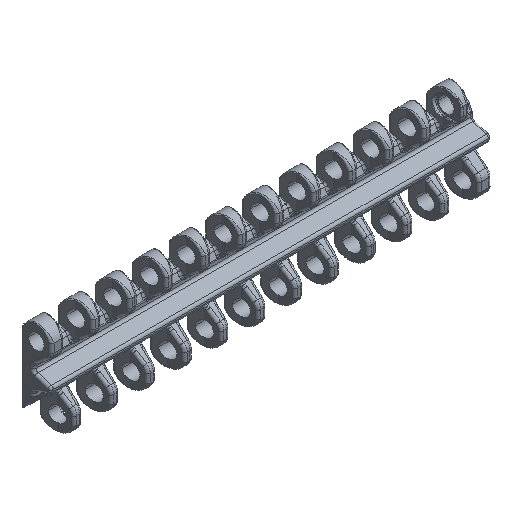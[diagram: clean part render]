
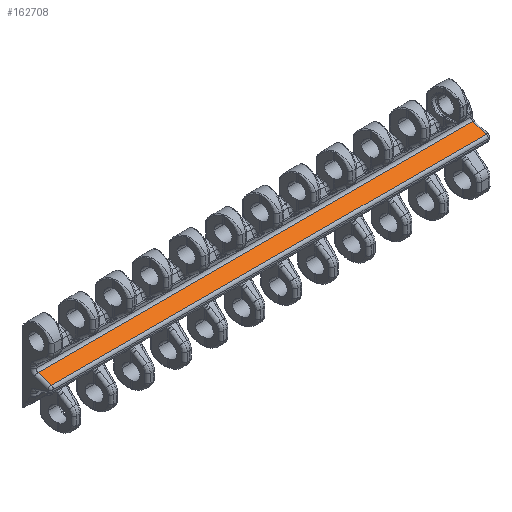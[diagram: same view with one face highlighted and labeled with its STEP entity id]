
A CAD part, isometric view. The second image highlights one B-rep face of the part: STEP entity #162708.
In plain terms, the highlighted planar face has unit normal (0, -0.309, 0.951).
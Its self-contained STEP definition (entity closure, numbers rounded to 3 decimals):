
#53233=DIRECTION('',(-1.,0.,0.));
#53234=VECTOR('',#53233,150.04);
#53235=CARTESIAN_POINT('',(75.02,0.409,2.725));
#53236=LINE('',#53235,#53234);
#53242=DIRECTION('',(0.,-0.951,-0.309));
#53243=VECTOR('',#53242,4.856);
#53244=CARTESIAN_POINT('',(75.02,0.409,2.725));
#53245=LINE('',#53244,#53243);
#53246=DIRECTION('',(-1.,0.,0.));
#53247=VECTOR('',#53246,150.04);
#53248=CARTESIAN_POINT('',(75.02,-4.209,1.225));
#53249=LINE('',#53248,#53247);
#53250=DIRECTION('',(0.,0.951,0.309));
#53251=VECTOR('',#53250,4.856);
#53252=CARTESIAN_POINT('',(-75.02,-4.209,1.225));
#53253=LINE('',#53252,#53251);
#59403=CARTESIAN_POINT('',(75.02,-4.209,1.225));
#59404=VERTEX_POINT('',#59403);
#59407=CARTESIAN_POINT('',(75.02,0.409,2.725));
#59408=VERTEX_POINT('',#59407);
#59456=CARTESIAN_POINT('',(-75.02,0.409,2.725));
#59457=VERTEX_POINT('',#59456);
#59460=CARTESIAN_POINT('',(-75.02,-4.209,1.225));
#59461=VERTEX_POINT('',#59460);
#162697=CARTESIAN_POINT('',(72.845,0.409,2.725));
#162698=DIRECTION('',(0.,-0.309,0.951));
#162699=DIRECTION('',(0.,-0.951,-0.309));
#162700=AXIS2_PLACEMENT_3D('',#162697,#162698,#162699);
#162701=PLANE('',#162700);
#162702=ORIENTED_EDGE('',*,*,#64695,.T.);
#162703=ORIENTED_EDGE('',*,*,#64724,.T.);
#162704=ORIENTED_EDGE('',*,*,#64910,.T.);
#162705=ORIENTED_EDGE('',*,*,#162690,.F.);
#162706=EDGE_LOOP('',(#162702,#162703,#162704,#162705));
#162707=FACE_OUTER_BOUND('',#162706,.F.);
#64695=EDGE_CURVE('',#59408,#59404,#53245,.T.);
#64724=EDGE_CURVE('',#59404,#59461,#53249,.T.);
#64910=EDGE_CURVE('',#59461,#59457,#53253,.T.);
#162690=EDGE_CURVE('',#59408,#59457,#53236,.T.);
#162708=ADVANCED_FACE('',(#162707),#162701,.T.);
